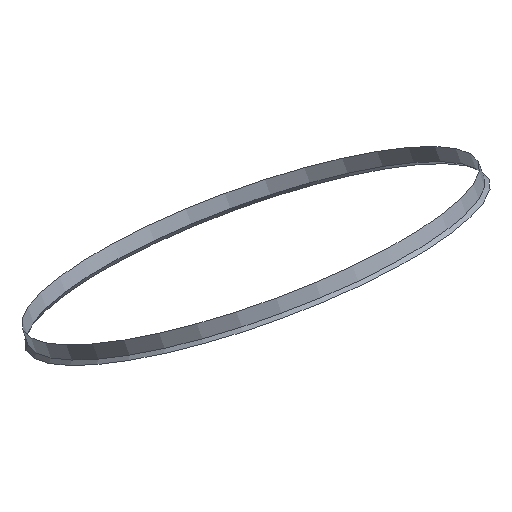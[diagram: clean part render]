
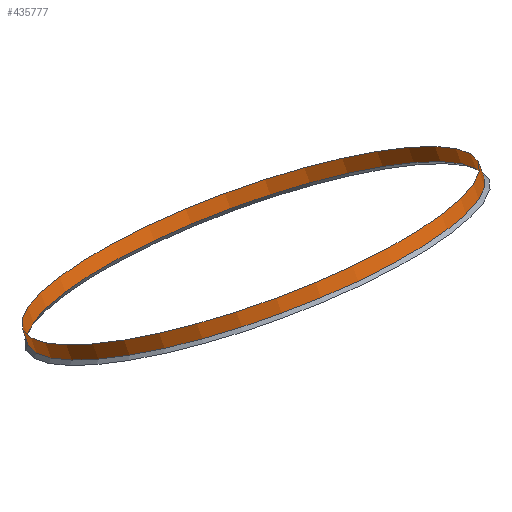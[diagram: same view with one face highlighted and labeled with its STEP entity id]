
A CAD part, isometric view. The second image highlights one B-rep face of the part: STEP entity #435777.
In plain terms, the highlighted cylindrical face has radius 0.826 mm (diameter 1.651 mm), a full revolution.
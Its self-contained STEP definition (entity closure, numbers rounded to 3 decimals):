
#46229=FACE_OUTER_BOUND('',#76357,.T.);
#76357=EDGE_LOOP('',(#330452,#330453,#330454,#330455));
#106987=LINE('',#737410,#140303);
#140303=VECTOR('',#546515,0.825);
#173934=CIRCLE('',#473295,0.825);
#173935=CIRCLE('',#473298,0.825);
#201170=VERTEX_POINT('',#737392);
#201177=VERTEX_POINT('',#737409);
#248570=EDGE_CURVE('',#201170,#201170,#173934,.T.);
#248577=EDGE_CURVE('',#201170,#201177,#106987,.T.);
#248578=EDGE_CURVE('',#201177,#201177,#173935,.T.);
#330452=ORIENTED_EDGE('',*,*,#248570,.T.);
#330453=ORIENTED_EDGE('',*,*,#248577,.T.);
#330454=ORIENTED_EDGE('',*,*,#248578,.F.);
#330455=ORIENTED_EDGE('',*,*,#248577,.F.);
#423783=CYLINDRICAL_SURFACE('',#473297,0.825);
#435777=ADVANCED_FACE('',(#46229),#423783,.F.);
#473295=AXIS2_PLACEMENT_3D('',#737394,#546503,#546504);
#473297=AXIS2_PLACEMENT_3D('',#737408,#546513,#546514);
#473298=AXIS2_PLACEMENT_3D('',#737411,#546516,#546517);
#546503=DIRECTION('center_axis',(0.,-0.469,
-0.883));
#546504=DIRECTION('ref_axis',(0.906,0.373,-0.198));
#546513=DIRECTION('center_axis',(0.,-0.469,
-0.883));
#546514=DIRECTION('ref_axis',(0.906,0.373,-0.198));
#546515=DIRECTION('',(0.,0.469,0.883));
#546516=DIRECTION('center_axis',(0.,-0.469,
-0.883));
#546517=DIRECTION('ref_axis',(0.906,0.373,-0.198));
#737392=CARTESIAN_POINT('',(13.076,-4.429,65.764));
#737394=CARTESIAN_POINT('Origin',(13.824,-4.121,65.601));
#737408=CARTESIAN_POINT('Origin',(13.824,-4.128,65.588));
#737409=CARTESIAN_POINT('',(13.076,-4.403,65.814));
#737410=CARTESIAN_POINT('',(13.076,-4.436,65.752));
#737411=CARTESIAN_POINT('Origin',(13.824,-4.095,65.65));
